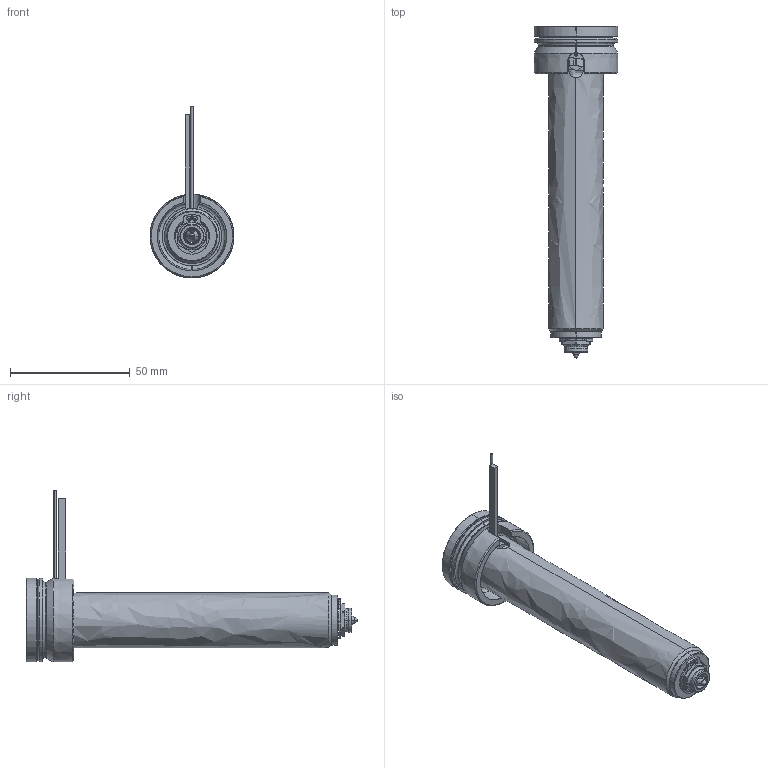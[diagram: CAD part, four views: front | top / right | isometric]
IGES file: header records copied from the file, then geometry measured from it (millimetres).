
Start section: SolidWorks IGES file using analytic representation for surfaces
Global section: file name: C:\Documents and Settings\ws-20\Desktop\TEM\UGEP3053-S-A-1 [Øf-0.90 ØC-6.0].IGS; native system: SolidWorks 2012; preprocessor: SolidWorks 2012; author: ws-20; date: 120402.112859; units: millimetre
Bounding box: 35 x 138.8 x 71.9 mm (x, y, z)
Surface area: 28135.4 mm2 (no closed solid volume)
Topology: 0 solids, 0 shells, 138 faces, 2139 edges, 2139 vertices
Faces by surface type: revolution 87, bspline 51
